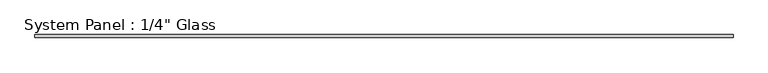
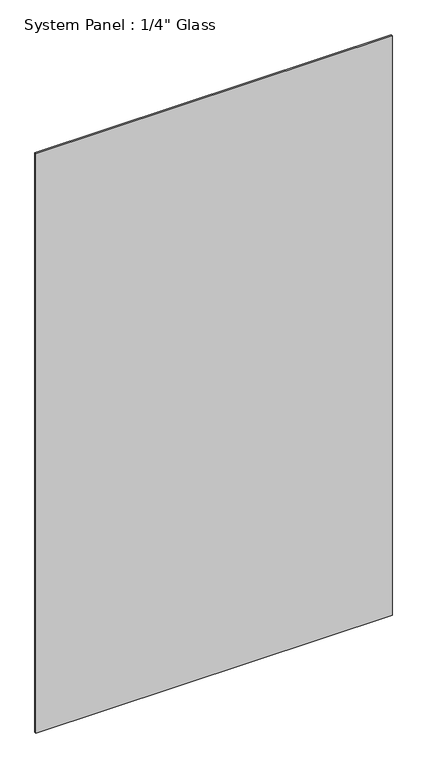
"""IFC4 building model written with IfcOpenShell, lengths in millimetres: plate geometry."""

from ifc_helpers import new_model, si_unit, origin, origin_with_axes, place, context, project, spatial, polyline, outline, extrude, source, transform, mapped, element, save


def plate_5a14c350(model_context):
    return source(origin(), model_context, "Body", "SweptSolid", [
        extrude(outline(polyline([(723.9, -3.175), (-723.9, -3.175), (-723.9, 3.175), (723.9, 3.175), (723.9, -3.175)])), origin_with_axes(), (0.0, 0.0, 1.0), 2489.2),
    ])


if __name__ == "__main__":
    model = new_model("IFC4")
    model_context = context("Model", 3, world=origin())
    ifc_project = project(units=[si_unit("LENGTHUNIT", "METRE", prefix="MILLI")], contexts=[model_context])
    site = spatial("IfcSite", under=ifc_project)
    building = spatial("IfcBuilding", under=site)
    placement = place(None, origin())
    plate_shape = plate_5a14c350(model_context)
    element("IfcPlate", 1, ObjectType="System Panel : 1/4\" Glass", at=placement, inside=building, context=model_context, shape_type="MappedRepresentation", body=[
        mapped(plate_shape, transform((0.0, 0.0, 0.0), x_axis=(1.0, 0.0, 0.0), y_axis=(0.0, 1.0, 0.0), z_axis=(0.0, 0.0, 1.0))),
    ])
    save(model, "model.ifc")
